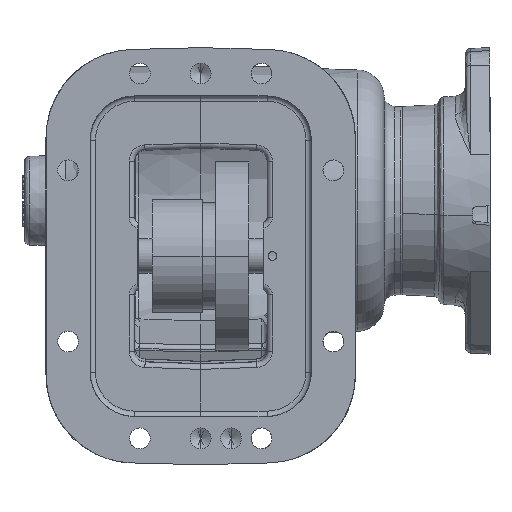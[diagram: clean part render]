
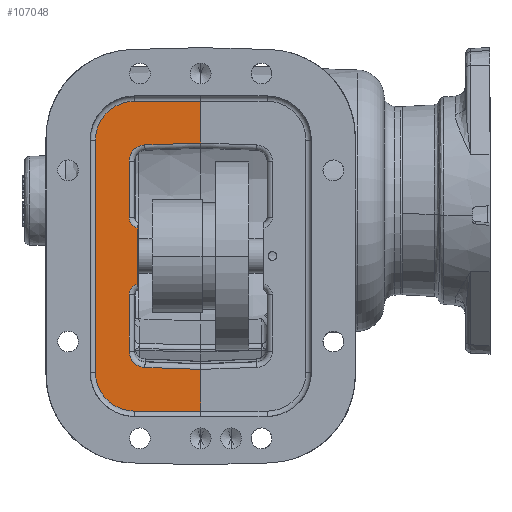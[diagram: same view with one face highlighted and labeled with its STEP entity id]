
A CAD part, front view. The second image highlights one B-rep face of the part: STEP entity #107048.
In plain terms, the highlighted planar face has unit normal (0, -1, 0).
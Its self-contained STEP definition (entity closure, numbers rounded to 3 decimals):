
#7054 = DIRECTION ( 'NONE',  ( 0., 0., -1. ) ) ;
#7059 = CARTESIAN_POINT ( 'NONE',  ( 0.127, -151.106, 55.209 ) ) ;
#7066 = CARTESIAN_POINT ( 'NONE',  ( 0.127, -151.106, 55.209 ) ) ;
#7075 = DIRECTION ( 'NONE',  ( 0., 0., -1. ) ) ;
#19747 = CARTESIAN_POINT ( 'NONE',  ( -31.951, -151.106, -126.172 ) ) ;
#19755 = CARTESIAN_POINT ( 'NONE',  ( -41.021, -151.106, -84.428 ) ) ;
#19757 = CARTESIAN_POINT ( 'NONE',  ( 0.127, -151.106, -127.292 ) ) ;
#19761 = CARTESIAN_POINT ( 'NONE',  ( -41.021, -151.106, -116.779 ) ) ;
#19770 = CARTESIAN_POINT ( 'NONE',  ( -36.195, -151.106, -78.466 ) ) ;
#19779 = CARTESIAN_POINT ( 'NONE',  ( -36.195, -151.106, -46.066 ) ) ;
#19783 = CARTESIAN_POINT ( 'NONE',  ( -41.021, -151.106, -7.753 ) ) ;
#19785 = CARTESIAN_POINT ( 'NONE',  ( -31.951, -151.106, 1.64 ) ) ;
#19787 = CARTESIAN_POINT ( 'NONE',  ( -41.021, -151.106, -40.104 ) ) ;
#19806 = CARTESIAN_POINT ( 'NONE',  ( 0.127, -151.106, 2.76 ) ) ;
#19837 = CARTESIAN_POINT ( 'NONE',  ( -60.325, -151.106, -128.941 ) ) ;
#19843 = CARTESIAN_POINT ( 'NONE',  ( 0.127, -151.106, -151.293 ) ) ;
#19847 = CARTESIAN_POINT ( 'NONE',  ( -60.325, -151.106, 4.409 ) ) ;
#19849 = CARTESIAN_POINT ( 'NONE',  ( -37.973, -151.106, -151.293 ) ) ;
#19855 = CARTESIAN_POINT ( 'NONE',  ( -37.973, -151.106, 26.761 ) ) ;
#19861 = CARTESIAN_POINT ( 'NONE',  ( 0.127, -151.106, 26.761 ) ) ;
#22338 = EDGE_CURVE ( 'NONE', #57809, #57802, #52575, .T. ) ;
#22355 = EDGE_CURVE ( 'NONE', #57802, #57813, #52582, .T. ) ;
#22369 = EDGE_CURVE ( 'NONE', #57813, #57815, #52588, .T. ) ;
#22389 = EDGE_CURVE ( 'NONE', #57815, #57839, #52599, .T. ) ;
#22410 = EDGE_CURVE ( 'NONE', #57839, #57845, #52607, .T. ) ;
#22437 = EDGE_CURVE ( 'NONE', #57845, #57859, #52614, .T. ) ;
#22454 = EDGE_CURVE ( 'NONE', #57859, #57851, #52620, .T. ) ;
#22474 = EDGE_CURVE ( 'NONE', #57851, #57864, #52630, .T. ) ;
#22493 = EDGE_CURVE ( 'NONE', #57864, #57886, #52636, .T. ) ;
#22687 = EDGE_CURVE ( 'NONE', #57951, #57960, #52703, .T. ) ;
#22693 = EDGE_CURVE ( 'NONE', #57960, #57954, #52701, .T. ) ;
#22706 = EDGE_CURVE ( 'NONE', #57968, #57951, #52718, .T. ) ;
#22727 = EDGE_CURVE ( 'NONE', #57979, #57968, #52740, .T. ) ;
#22745 = EDGE_CURVE ( 'NONE', #57990, #57979, #52753, .T. ) ;
#25252 = LINE ( 'NONE', #7059, #25267 ) ;
#25264 = LINE ( 'NONE', #7066, #25273 ) ;
#25267 = VECTOR ( 'NONE', #7054, 1000. ) ;
#25273 = VECTOR ( 'NONE', #7075, 1000. ) ;
#28769 = AXIS2_PLACEMENT_3D ( 'NONE', #51311, #51313, #51315 ) ;
#28787 = AXIS2_PLACEMENT_3D ( 'NONE', #51388, #51389, #51391 ) ;
#28818 = AXIS2_PLACEMENT_3D ( 'NONE', #51493, #51495, #51497 ) ;
#28834 = AXIS2_PLACEMENT_3D ( 'NONE', #51564, #51566, #51568 ) ;
#28907 = AXIS2_PLACEMENT_3D ( 'NONE', #48361, #48362, #48363 ) ;
#28921 = AXIS2_PLACEMENT_3D ( 'NONE', #48390, #48391, #48392 ) ;
#39755 = CARTESIAN_POINT ( 'NONE',  ( -88.773, -151.106, 55.209 ) ) ;
#39759 = PLANE ( 'NONE',  #89284 ) ;
#39761 = DIRECTION ( 'NONE',  ( 0., 1., 0. ) ) ;
#39762 = DIRECTION ( 'NONE',  ( 0., 0., 1. ) ) ;
#46580 = ORIENTED_EDGE ( 'NONE', *, *, #75804, .F. ) ;
#46582 = ORIENTED_EDGE ( 'NONE', *, *, #22338, .T. ) ;
#46584 = ORIENTED_EDGE ( 'NONE', *, *, #22355, .T. ) ;
#46586 = ORIENTED_EDGE ( 'NONE', *, *, #22369, .T. ) ;
#46589 = ORIENTED_EDGE ( 'NONE', *, *, #22389, .T. ) ;
#46592 = ORIENTED_EDGE ( 'NONE', *, *, #22410, .T. ) ;
#46594 = ORIENTED_EDGE ( 'NONE', *, *, #22437, .T. ) ;
#46596 = ORIENTED_EDGE ( 'NONE', *, *, #22454, .T. ) ;
#46598 = ORIENTED_EDGE ( 'NONE', *, *, #22474, .T. ) ;
#46601 = ORIENTED_EDGE ( 'NONE', *, *, #22493, .T. ) ;
#46604 = ORIENTED_EDGE ( 'NONE', *, *, #75806, .F. ) ;
#46606 = ORIENTED_EDGE ( 'NONE', *, *, #22745, .T. ) ;
#46608 = ORIENTED_EDGE ( 'NONE', *, *, #22727, .T. ) ;
#46611 = ORIENTED_EDGE ( 'NONE', *, *, #22706, .T. ) ;
#46613 = ORIENTED_EDGE ( 'NONE', *, *, #22687, .T. ) ;
#46615 = ORIENTED_EDGE ( 'NONE', *, *, #22693, .T. ) ;
#48360 = DIRECTION ( 'NONE',  ( 1., 0., 0. ) ) ;
#48361 = CARTESIAN_POINT ( 'NONE',  ( -37.973, -151.106, -128.941 ) ) ;
#48362 = DIRECTION ( 'NONE',  ( 0., -1., 0. ) ) ;
#48363 = DIRECTION ( 'NONE',  ( 0., 0., 1. ) ) ;
#48364 = CARTESIAN_POINT ( 'NONE',  ( 0.127, -151.106, -151.293 ) ) ;
#48371 = CARTESIAN_POINT ( 'NONE',  ( -60.325, -151.106, -128.941 ) ) ;
#48377 = DIRECTION ( 'NONE',  ( 0., 0., -1. ) ) ;
#48390 = CARTESIAN_POINT ( 'NONE',  ( -37.973, -151.106, 4.409 ) ) ;
#48391 = DIRECTION ( 'NONE',  ( 0., -1., 0. ) ) ;
#48392 = DIRECTION ( 'NONE',  ( 0., 0., 1. ) ) ;
#48403 = CARTESIAN_POINT ( 'NONE',  ( -37.973, -151.106, 26.761 ) ) ;
#48409 = DIRECTION ( 'NONE',  ( -1., 0., 0. ) ) ;
#51257 = DIRECTION ( 'NONE',  ( -0.999, 0., 0.035 ) ) ;
#51265 = CARTESIAN_POINT ( 'NONE',  ( -31.951, -151.106, -126.172 ) ) ;
#51311 = CARTESIAN_POINT ( 'NONE',  ( -31.623, -151.106, -116.779 ) ) ;
#51313 = DIRECTION ( 'NONE',  ( 0., 1., 0. ) ) ;
#51315 = DIRECTION ( 'NONE',  ( 0., 0., 1. ) ) ;
#51333 = DIRECTION ( 'NONE',  ( 0., 0., 1. ) ) ;
#51340 = CARTESIAN_POINT ( 'NONE',  ( -41.021, -151.106, -84.428 ) ) ;
#51388 = CARTESIAN_POINT ( 'NONE',  ( -34.925, -151.106, -84.428 ) ) ;
#51389 = DIRECTION ( 'NONE',  ( 0., 1., 0. ) ) ;
#51391 = DIRECTION ( 'NONE',  ( 0., 0., 1. ) ) ;
#51421 = DIRECTION ( 'NONE',  ( 0., 0., 1. ) ) ;
#51428 = CARTESIAN_POINT ( 'NONE',  ( -36.195, -151.106, -46.066 ) ) ;
#51493 = CARTESIAN_POINT ( 'NONE',  ( -34.925, -151.106, -40.104 ) ) ;
#51495 = DIRECTION ( 'NONE',  ( 0., 1., 0. ) ) ;
#51497 = DIRECTION ( 'NONE',  ( 0., 0., 1. ) ) ;
#51509 = DIRECTION ( 'NONE',  ( 0., 0., 1. ) ) ;
#51516 = CARTESIAN_POINT ( 'NONE',  ( -41.021, -151.106, -7.753 ) ) ;
#51564 = CARTESIAN_POINT ( 'NONE',  ( -31.623, -151.106, -7.753 ) ) ;
#51566 = DIRECTION ( 'NONE',  ( 0., 1., 0. ) ) ;
#51568 = DIRECTION ( 'NONE',  ( 0., 0., 1. ) ) ;
#51587 = CARTESIAN_POINT ( 'NONE',  ( 0.021, -151.106, 2.756 ) ) ;
#51602 = DIRECTION ( 'NONE',  ( 0.999, 0., 0.035 ) ) ;
#52575 = LINE ( 'NONE', #51265, #52578 ) ;
#52578 = VECTOR ( 'NONE', #51257, 1000. ) ;
#52582 = CIRCLE ( 'NONE', #28769, 9.398 ) ;
#52588 = LINE ( 'NONE', #51340, #52594 ) ;
#52594 = VECTOR ( 'NONE', #51333, 1000. ) ;
#52599 = CIRCLE ( 'NONE', #28787, 6.096 ) ;
#52607 = LINE ( 'NONE', #51428, #52610 ) ;
#52610 = VECTOR ( 'NONE', #51421, 1000. ) ;
#52614 = CIRCLE ( 'NONE', #28818, 6.096 ) ;
#52620 = LINE ( 'NONE', #51516, #52626 ) ;
#52626 = VECTOR ( 'NONE', #51509, 1000. ) ;
#52630 = CIRCLE ( 'NONE', #28834, 9.398 ) ;
#52636 = LINE ( 'NONE', #51587, #52642 ) ;
#52642 = VECTOR ( 'NONE', #51602, 1000. ) ;
#52701 = LINE ( 'NONE', #48364, #52712 ) ;
#52703 = CIRCLE ( 'NONE', #28907, 22.352 ) ;
#52712 = VECTOR ( 'NONE', #48360, 1000. ) ;
#52718 = LINE ( 'NONE', #48371, #52727 ) ;
#52727 = VECTOR ( 'NONE', #48377, 1000. ) ;
#52740 = CIRCLE ( 'NONE', #28921, 22.352 ) ;
#52753 = LINE ( 'NONE', #48403, #52762 ) ;
#52762 = VECTOR ( 'NONE', #48409, 1000. ) ;
#57802 = VERTEX_POINT ( 'NONE', #19747 ) ;
#57809 = VERTEX_POINT ( 'NONE', #19757 ) ;
#57813 = VERTEX_POINT ( 'NONE', #19761 ) ;
#57815 = VERTEX_POINT ( 'NONE', #19755 ) ;
#57839 = VERTEX_POINT ( 'NONE', #19770 ) ;
#57845 = VERTEX_POINT ( 'NONE', #19779 ) ;
#57851 = VERTEX_POINT ( 'NONE', #19783 ) ;
#57859 = VERTEX_POINT ( 'NONE', #19787 ) ;
#57864 = VERTEX_POINT ( 'NONE', #19785 ) ;
#57886 = VERTEX_POINT ( 'NONE', #19806 ) ;
#57951 = VERTEX_POINT ( 'NONE', #19837 ) ;
#57954 = VERTEX_POINT ( 'NONE', #19843 ) ;
#57960 = VERTEX_POINT ( 'NONE', #19849 ) ;
#57968 = VERTEX_POINT ( 'NONE', #19847 ) ;
#57979 = VERTEX_POINT ( 'NONE', #19855 ) ;
#57990 = VERTEX_POINT ( 'NONE', #19861 ) ;
#62371 = FACE_OUTER_BOUND ( 'NONE', #74868, .T. ) ;
#74868 = EDGE_LOOP ( 'NONE', ( #46580, #46582, #46584, #46586, #46589, #46592, #46594, #46596, #46598, #46601, #46604, #46606, #46608, #46611, #46613, #46615 ) ) ;
#75804 = EDGE_CURVE ( 'NONE', #57809, #57954, #25252, .T. ) ;
#75806 = EDGE_CURVE ( 'NONE', #57990, #57886, #25264, .T. ) ;
#89284 = AXIS2_PLACEMENT_3D ( 'NONE', #39755, #39761, #39762 ) ;
#107048 = ADVANCED_FACE ( 'NONE', ( #62371 ), #39759, .F. ) ;
